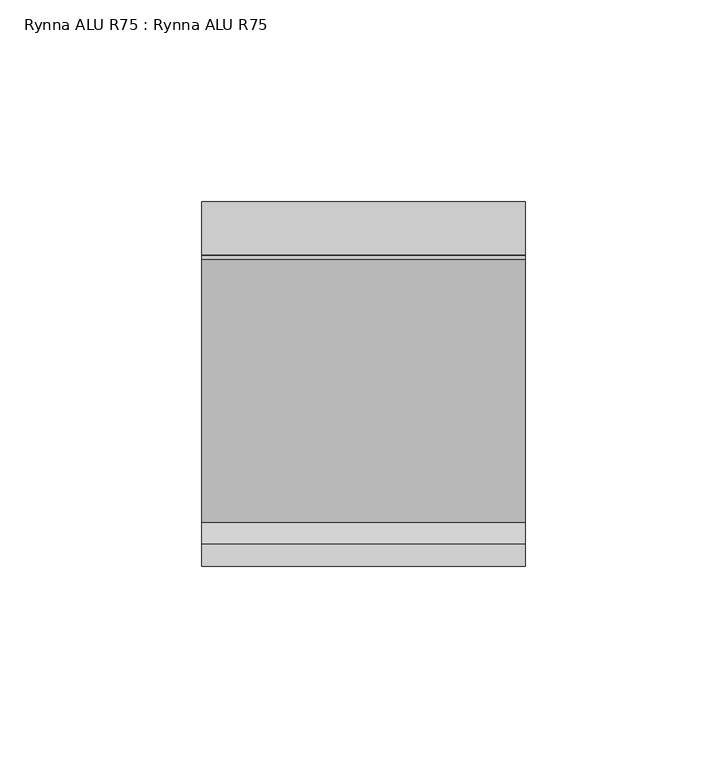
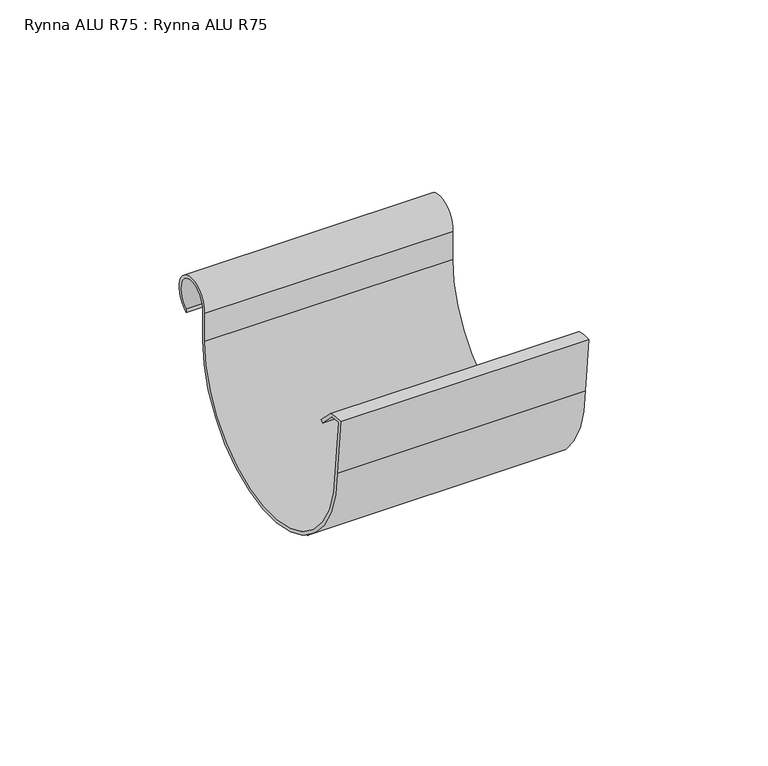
"""IFC4 building model written with IfcOpenShell, lengths in millimetres: proxy geometry, Rynna ALU R75 : Rynna ALU R75."""

import ifcopenshell
import ifcopenshell.guid

model = None  # the IFC model being written
_history = None  # IfcOwnerHistory: only IFC2X3 demands one
_inside = {}  # id of a spatial element -> (the spatial element, [elements in it])
_under = {}  # id of a project, library or spatial element -> (it, [spatial elements below it])
_declared = {}  # id of a project -> (the project, [libraries it declares])
_typed = {}  # id of a type object -> (the type object, [elements of that type])
_made_of = {}  # id of a material, layer set ... -> (it, [elements and type objects made of it])


def new_model(schema):
    """Start an empty IFC model of exactly this schema.

    Asked for "IFC4X3", IfcOpenShell would pick the latest addendum, in which some entities
    have other attributes; the version numbers below select the first issue.
    IFC2X3 requires an IfcOwnerHistory on every rooted entity: one is made here for all.
    """
    global model, _history
    if schema == "IFC4X3":
        model = ifcopenshell.file(schema_version=(4, 3, 0, 0))
    else:
        model = ifcopenshell.file(schema=schema)
    _inside.clear()
    _under.clear()
    _declared.clear()
    _typed.clear()
    _made_of.clear()
    _history = None
    if model.schema == "IFC2X3":
        org = make("IfcOrganization", Name="unknown")
        user = make(
            "IfcPersonAndOrganization",
            ThePerson=make("IfcPerson", FamilyName="unknown"),
            TheOrganization=org,
        )
        app = make(
            "IfcApplication",
            ApplicationDeveloper=org,
            Version="unknown",
            ApplicationFullName="unknown",
            ApplicationIdentifier="unknown",
        )
        _history = make(
            "IfcOwnerHistory",
            OwningUser=user,
            OwningApplication=app,
            ChangeAction="ADDED",
            CreationDate=0,
        )
    return model


def make(cls, **values):
    """One entity of the class cls with the attributes given. An attribute that is None is left unset."""
    return model.create_entity(
        cls, **{name: value for name, value in values.items() if value is not None}
    )


def rooted(cls, **values):
    """An entity with a GlobalId (a new one), such as an element, a storey or a relation."""
    return make(cls, GlobalId=ifcopenshell.guid.new(), OwnerHistory=_history, **values)


def si_unit(unit_type, name, prefix=None):
    """IfcSIUnit, for example si_unit("LENGTHUNIT", "METRE", prefix="MILLI")."""
    return make("IfcSIUnit", UnitType=unit_type, Prefix=prefix, Name=name)


def assignment(units):
    """IfcUnitAssignment: the units of a project."""
    return None if units is None else make("IfcUnitAssignment", Units=units)


def point(xyz):
    """IfcCartesianPoint."""
    return None if xyz is None else make("IfcCartesianPoint", Coordinates=xyz)


def direction(xyz):
    """IfcDirection."""
    return None if xyz is None else make("IfcDirection", DirectionRatios=xyz)


def frame(location, z_axis=None, x_axis=None):
    """IfcAxis2Placement3D, a coordinate frame: its origin and axes. An axis left out is left unset."""
    return make(
        "IfcAxis2Placement3D",
        Location=point(location),
        Axis=direction(z_axis),
        RefDirection=direction(x_axis),
    )


def frame_2d(location, x_axis=None):
    """IfcAxis2Placement2D, a coordinate frame in the plane: its origin and x axis."""
    return make(
        "IfcAxis2Placement2D", Location=point(location), RefDirection=direction(x_axis)
    )


def origin():
    """The frame at (0, 0, 0) with its axes left unset."""
    return frame((0.0, 0.0, 0.0))


def place(relative_to, where):
    """IfcLocalPlacement: puts the frame where relative to a parent placement (None: the world)."""
    return make(
        "IfcLocalPlacement", PlacementRelTo=relative_to, RelativePlacement=where
    )


def context(
    kind, dimensions, precision=None, world=None, true_north=None, identifier=None
):
    """IfcGeometricRepresentationContext, for example the 3D "Model" context."""
    return make(
        "IfcGeometricRepresentationContext",
        ContextIdentifier=identifier,
        ContextType=kind,
        CoordinateSpaceDimension=dimensions,
        Precision=precision,
        WorldCoordinateSystem=world,
        TrueNorth=true_north,
    )


def project(units=None, contexts=None):
    """IfcProject with its units and contexts."""
    return rooted(
        "IfcProject",
        Name="project",
        RepresentationContexts=contexts,
        UnitsInContext=assignment(units),
    )


def spatial(cls, under=None, at=None, **own):
    """A site, building, storey or space (cls), placed at a placement, below another one or the project."""
    s = rooted(cls, ObjectPlacement=at, **own)
    if under is not None:
        _under.setdefault(under.id(), (under, []))[1].append(s)
    return s


def polyline(points):
    """IfcPolyline through the points."""
    return make("IfcPolyline", Points=[point(p) for p in points])


def circle_curve(where, radius):
    """IfcCircle in the frame where."""
    return make("IfcCircle", Position=where, Radius=radius)


def trimmed(basis, trim1, trim2, sense, master):
    """IfcTrimmedCurve: the piece of a basis curve between two trims."""
    return make(
        "IfcTrimmedCurve",
        BasisCurve=basis,
        Trim1=trim1,
        Trim2=trim2,
        SenseAgreement=sense,
        MasterRepresentation=master,
    )


def segment(curve, same_sense, transition):
    """IfcCompositeCurveSegment."""
    return make(
        "IfcCompositeCurveSegment",
        Transition=transition,
        SameSense=same_sense,
        ParentCurve=curve,
    )


def composite_curve(segments, self_intersect=None):
    """IfcCompositeCurve: segments joined end to end."""
    return make("IfcCompositeCurve", Segments=segments, SelfIntersect=self_intersect)


def outline(outer, holes=None, kind="AREA"):
    """IfcArbitraryClosedProfileDef: a profile drawn as a closed curve; with holes, ...WithVoids."""
    if holes is None:
        return make("IfcArbitraryClosedProfileDef", ProfileType=kind, OuterCurve=outer)
    return make(
        "IfcArbitraryProfileDefWithVoids",
        ProfileType=kind,
        OuterCurve=outer,
        InnerCurves=holes,
    )


def extrude(swept, where, along, depth):
    """IfcExtrudedAreaSolid: the profile swept, set in the frame where, extruded along a direction by depth."""
    return make(
        "IfcExtrudedAreaSolid",
        SweptArea=swept,
        Position=where,
        ExtrudedDirection=direction(along),
        Depth=depth,
    )


def shape(context_of_items, identifier, shape_type, items):
    """IfcShapeRepresentation: the items that make up one representation, for example the "Body"."""
    return make(
        "IfcShapeRepresentation",
        ContextOfItems=context_of_items,
        RepresentationIdentifier=identifier,
        RepresentationType=shape_type,
        Items=items,
    )


def source(mapping_origin, context_of_items, identifier, shape_type, items):
    """IfcRepresentationMap: a shape defined once, which mapped items show again and again."""
    return make(
        "IfcRepresentationMap",
        MappingOrigin=mapping_origin,
        MappedRepresentation=shape(context_of_items, identifier, shape_type, items),
    )


def transform(
    local_origin,
    x_axis=None,
    y_axis=None,
    z_axis=None,
    scale=None,
    scale2=None,
    scale3=None,
    uniform=True,
):
    """IfcCartesianTransformationOperator3D, or its non-uniform kind. x_axis, y_axis, z_axis: its Axis1, 2, 3."""
    if uniform:
        return make(
            "IfcCartesianTransformationOperator3D",
            Axis1=direction(x_axis),
            Axis2=direction(y_axis),
            LocalOrigin=point(local_origin),
            Scale=scale,
            Axis3=direction(z_axis),
        )
    return make(
        "IfcCartesianTransformationOperator3DnonUniform",
        Axis1=direction(x_axis),
        Axis2=direction(y_axis),
        LocalOrigin=point(local_origin),
        Scale=scale,
        Axis3=direction(z_axis),
        Scale2=scale2,
        Scale3=scale3,
    )


def mapped(mapping_source, mapping_target):
    """IfcMappedItem: shows the shape of a source again, moved by a transform."""
    return make(
        "IfcMappedItem", MappingSource=mapping_source, MappingTarget=mapping_target
    )


def made_of(thing, what):
    """Note that an element or type object is made of a material, layer set ...; save() writes the relation."""
    if what is not None:
        _made_of.setdefault(what.id(), (what, []))[1].append(thing)
    return thing


def element(
    cls,
    number,
    at=None,
    inside=None,
    cuts=None,
    type_object=None,
    material=None,
    context=None,
    identifier="Body",
    shape_type=None,
    held_by="IfcProductDefinitionShape",
    body=None,
    shapes=None,
    **own,
):
    """One element of the class cls, such as IfcWall. Its Tag is "e" and its number.

    at: its placement. inside: the storey or other place that contains it. cuts: it is an
    opening in that element (IfcRelVoidsElement). A single representation is given by context,
    identifier, shape_type and body (its items); several are given by shapes. held_by: the class
    of the entity that holds the representations. save() writes the other relations.
    """
    e = rooted(cls, Tag="e%d" % number, ObjectPlacement=at, **own)
    if body is not None:
        shapes = [shape(context, identifier, shape_type, body)]
    if shapes is not None:
        e.Representation = make(held_by, Representations=shapes)
    if inside is not None:
        _inside.setdefault(inside.id(), (inside, []))[1].append(e)
    if cuts is not None:
        rooted(
            "IfcRelVoidsElement", RelatingBuildingElement=cuts, RelatedOpeningElement=e
        )
    if type_object is not None:
        _typed.setdefault(type_object.id(), (type_object, []))[1].append(e)
    return made_of(e, material)


def aggregate(whole, parts):
    """IfcRelAggregates: a whole, such as a stair, and the parts it consists of."""
    return rooted("IfcRelAggregates", RelatingObject=whole, RelatedObjects=parts)


def save(model, path):
    """Write the relations noted so far, then the file.

    IfcRelAggregates (storeys below a building ...), IfcRelContainedInSpatialStructure (elements
    in a storey), IfcRelDefinesByType, IfcRelAssociatesMaterial and IfcRelDeclares: one each for
    every whole, place, type object, material and project.
    """
    for whole, parts in _under.values():
        aggregate(whole, parts)
    for where, things in _inside.values():
        rooted(
            "IfcRelContainedInSpatialStructure",
            RelatedElements=things,
            RelatingStructure=where,
        )
    for kind, things in _typed.values():
        rooted("IfcRelDefinesByType", RelatedObjects=things, RelatingType=kind)
    for what, things in _made_of.values():
        rooted("IfcRelAssociatesMaterial", RelatedObjects=things, RelatingMaterial=what)
    for by, libraries in _declared.values():
        rooted("IfcRelDeclares", RelatingContext=by, RelatedDefinitions=libraries)
    model.write(path)


def rynna_alu_r75_rynna_alu_r75_84c9ecab(model_context):
    return source(origin(), model_context, "Body", "SweptSolid", [
        extrude(outline(composite_curve([segment(trimmed(circle_curve(frame_2d((39.5, -18.8928858)), 37.5), [point((77.0000001, -18.8928858))], [point((2.0, -18.8928858))], False, "CARTESIAN"), True, "CONTINUOUS"), segment(polyline([(2.0, -18.8928858), (0.0, 0.0)]), True, "CONTINUOUS"), segment(trimmed(circle_curve(frame_2d((0.8393369, -17.5562346)), 17.5762868), [point((0.0, 0.0))], [point((5.4142136, -0.585779))], False, "CARTESIAN"), True, "CONTINUOUS"), segment(polyline([(5.4142136, -0.585779), (10.7298468, -5.9014122), (10.02274, -6.608519), (4.8989693, -1.4847483)]), True, "CONTINUOUS"), segment(trimmed(circle_curve(frame_2d((0.8393369, -17.5562346)), 16.5762868), [point((4.8989693, -1.4847483))], [point((1.1093439, -0.9821469))], True, "CARTESIAN"), True, "CONTINUOUS"), segment(polyline([(1.1093439, -0.9821469), (3.0000084, -18.8754102)]), True, "CONTINUOUS"), segment(trimmed(circle_curve(frame_2d((39.5000101, -18.8754102)), 36.5000017), [point((3.0000084, -18.8754102))], [point((76.0000118, -18.8754102))], True, "CARTESIAN"), True, "CONTINUOUS"), segment(polyline([(76.0000118, -18.8754102), (76.0000118, -9.3500002)]), True, "CONTINUOUS"), segment(trimmed(circle_curve(frame_2d((83.0655965, -8.651839)), 7.0999941), [point((76.0000118, -9.3500002))], [point((86.1676128, -15.0383413))], False, "CARTESIAN"), True, "CONTINUOUS"), segment(polyline([(86.1676128, -15.0383413), (86.1676128, -13.9042145)]), True, "CONTINUOUS"), segment(trimmed(circle_curve(frame_2d((83.065591, -8.6518374)), 6.1000004), [point((86.1676128, -13.9042145))], [point((77.0000001, -9.298839))], True, "CARTESIAN"), True, "CONTINUOUS"), segment(polyline([(77.0000001, -9.298839), (77.0000001, -18.8928858)]), True, "CONTINUOUS")], self_intersect=False)), frame((-40.0, 0.0, 0.0), z_axis=(1.0, 0.0, 0.0), x_axis=(0.0, 1.0, 0.0)), (0.0, 0.0, 1.0), 80.0),
    ])


if __name__ == "__main__":
    model = new_model("IFC4")
    model_context = context("Model", 3, world=origin())
    ifc_project = project(units=[si_unit("LENGTHUNIT", "METRE", prefix="MILLI")], contexts=[model_context])
    site = spatial("IfcSite", under=ifc_project)
    building = spatial("IfcBuilding", under=site)
    placement = place(None, origin())
    rynna_alu_r75_rynna_alu_r75_shape = rynna_alu_r75_rynna_alu_r75_84c9ecab(model_context)
    element("IfcBuildingElementProxy", 1, Name="Rynna ALU R75 : Rynna ALU R75", ObjectType="Rynna ALU R75 : Rynna ALU R75", at=placement, inside=building, context=model_context, shape_type="MappedRepresentation", body=[
        mapped(rynna_alu_r75_rynna_alu_r75_shape, transform((0.0, 0.0, 0.0), x_axis=(1.0, 0.0, 0.0), y_axis=(0.0, 1.0, 0.0), z_axis=(0.0, 0.0, 1.0))),
    ])
    save(model, "model.ifc")
